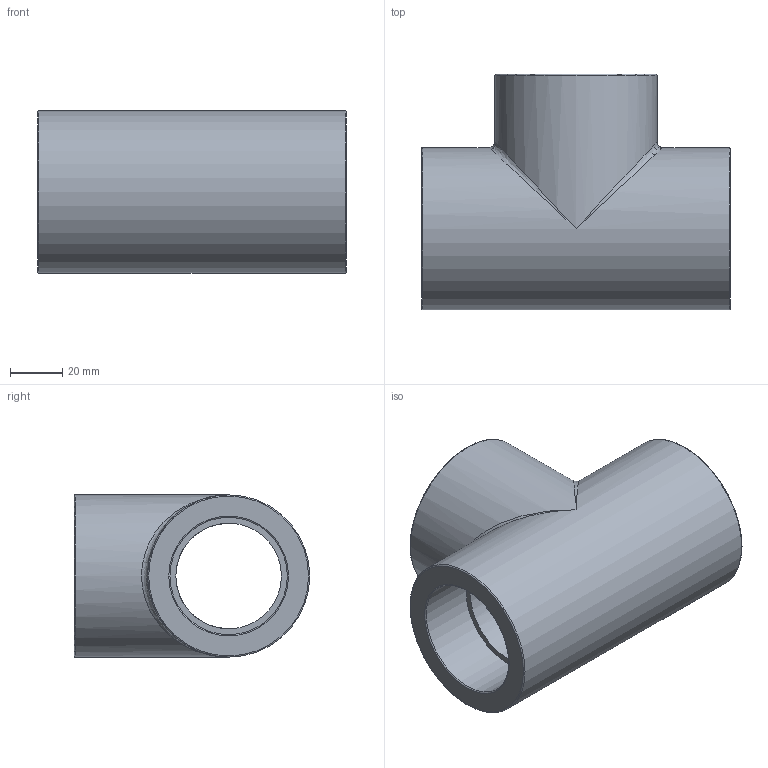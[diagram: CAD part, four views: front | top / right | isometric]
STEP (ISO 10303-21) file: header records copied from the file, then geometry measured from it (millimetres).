
FILE_DESCRIPTION(/* description */ ('PLASSON THREADED TEE PVC 1.1/2"'),/* implementation_level */ '2;1');
FILE_NAME(/* name */ 'C:\Dropbox\KIMPROJECTS-Inventor\99-16-3568-Processing\PVC Catalog 2017\050401\050401015.ipt.stp',/* time_stamp */ '2017-12-07T15:54:58+02:00',/* author */ ('KIM'),/* organization */ (''),/* preprocessor_version */ 'ST-DEVELOPER v15.6',/* originating_system */ 'Autodesk Inventor 2015',/* authorisation */ '');
FILE_SCHEMA (('AUTOMOTIVE_DESIGN { 1 0 10303 214 3 1 1 }'));
Length unit declared in the file: millimetre
Products named in the file (1): 050401015
Bounding box: 118 x 90 x 62 mm (x, y, z)
Volume: 230635.3 mm3; surface area: 51882.8 mm2
Topology: 1 solids, 1 shells, 20 faces, 46 edges, 26 vertices
Faces by surface type: cylinder 7, plane 6, torus 5, bspline 2
Full cylindrical faces by diameter (mm): 40.361 x2, 44.845 x3, 62 x2
Entity records: 550 total; most frequent: CARTESIAN_POINT 163, DIRECTION 84, ORIENTED_EDGE 46, AXIS2_PLACEMENT_3D 42, EDGE_LOOP 40, EDGE_CURVE 23, VERTEX_POINT 21, FACE_BOUND 20
